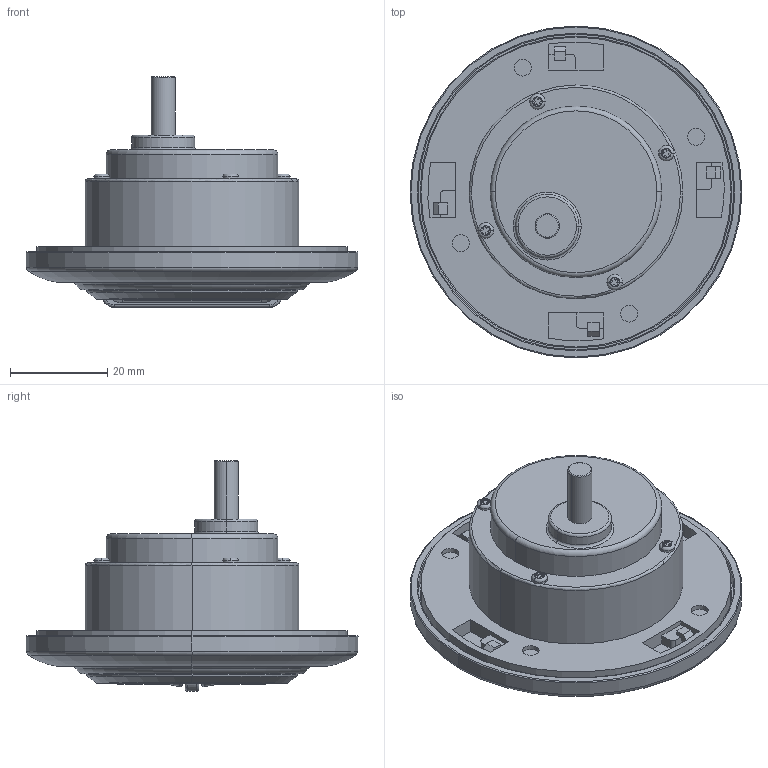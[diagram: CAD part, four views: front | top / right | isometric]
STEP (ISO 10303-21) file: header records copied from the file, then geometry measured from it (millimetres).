
FILE_DESCRIPTION (( 'STEP AP203' ), '1' );
FILE_NAME ('TH5.STEP', '2014-01-16T02:59:14', ( 'stanley' ), ( '' ), 'SwSTEP 2.0', 'SolidWorks 2010', '' );
FILE_SCHEMA (( 'CONFIG_CONTROL_DESIGN' ));
Length unit declared in the file: millimetre
Products named in the file (1): TH5
Bounding box: 68.32 x 68.32 x 47.4 mm (x, y, z)
Volume: 56831.8 mm3; surface area: 14874.1 mm2
Topology: 1 solids, 2 shells, 325 faces, 779 edges, 474 vertices
Faces by surface type: plane 154, cylinder 97, torus 50, bspline 16, cone 8
Entity records: 11236 total; most frequent: CARTESIAN_POINT 3761, ORIENTED_EDGE 1558, DIRECTION 1531, EDGE_CURVE 779, AXIS2_PLACEMENT_3D 552, VERTEX_POINT 474, LINE 427, VECTOR 427
